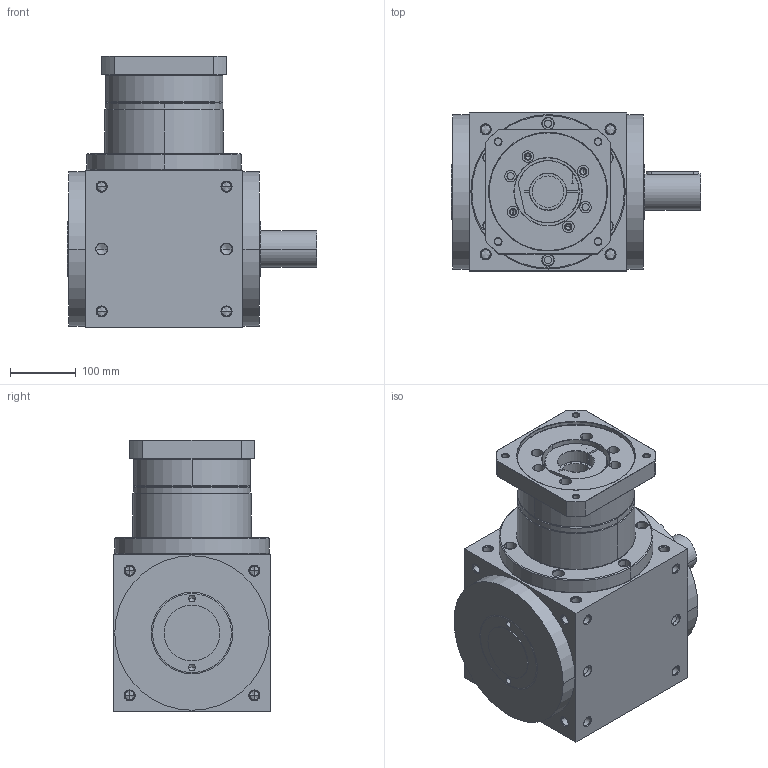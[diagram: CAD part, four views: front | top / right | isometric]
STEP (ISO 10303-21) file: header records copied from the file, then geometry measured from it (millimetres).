
FILE_DESCRIPTION((''),'2;1');
FILE_NAME('ATB240FR11-P0403600601_ASM','2014-07-30T',('d01544'),('APEX'),'PRO/ENGINEER BY PARAMETRIC TECHNOLOGY CORPORATION, 2008410','PRO/ENGINEER BY PARAMETRIC TECHNOLOGY CORPORATION, 2008410','');
FILE_SCHEMA(('CONFIG_CONTROL_DESIGN'));
Length unit declared in the file: millimetre
Products named in the file (6): ATB240FR1-A; P1820900001; P1502900001; P0501600001; P0403600601; ATB240FR11-P0403600601_ASM
Assembly tree (5 placements, depth 2):
  ATB240FR11-P0403600601_ASM
    ATB240FR1-A
    P1820900001
    P1502900001
    P0501600001
    P0403600601
Bounding box: 379 x 240 x 413.5 mm (x, y, z)
Volume: 19016290.9 mm3; surface area: 889976.5 mm2
Topology: 5 solids, 48 shells, 822 faces, 2009 edges, 1207 vertices
Faces by surface type: cylinder 370, cone 296, plane 122, torus 34
Entity records: 24695 total; most frequent: CARTESIAN_POINT 5160, DIRECTION 4405, ORIENTED_EDGE 3666, EDGE_CURVE 1919, AXIS2_PLACEMENT_3D 1847, VERTEX_POINT 1207, EDGE_LOOP 1010, CIRCLE 1004
